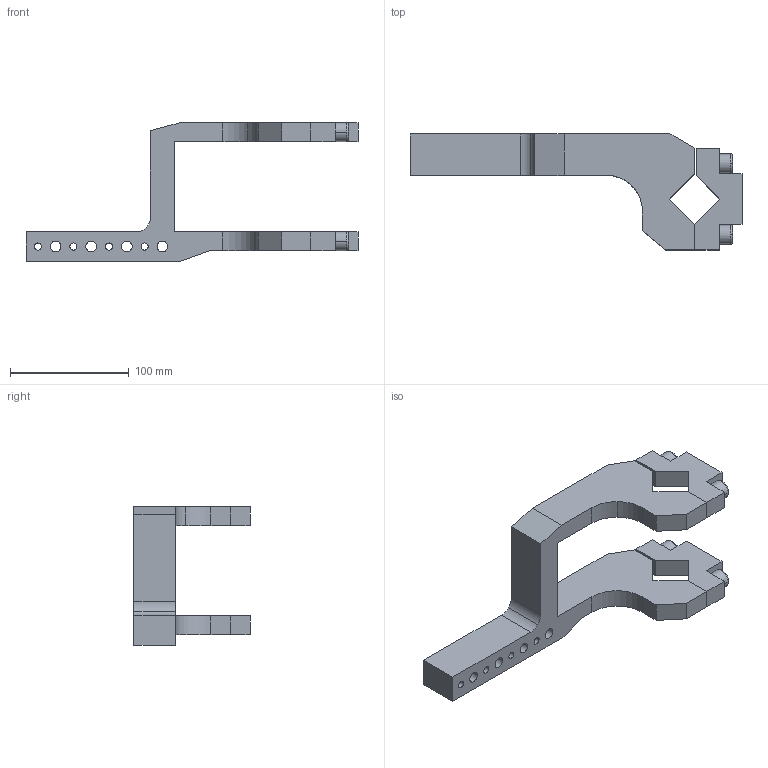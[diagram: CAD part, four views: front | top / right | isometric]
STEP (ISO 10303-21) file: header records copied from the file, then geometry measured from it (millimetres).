
FILE_DESCRIPTION((''),'2;1');
FILE_NAME('S:\Matthew\Step Files\XM Clamp Arms\XJ80-CAR-04.stp','2006-06-28T08:22:01',('Matthew'),(''),'Autodesk Inventor 8','Autodesk Inventor 8','');
FILE_SCHEMA(('AUTOMOTIVE_DESIGN { 1 0 10303 214 1 1 1 1 }'));
Length unit declared in the file: millimetre
Products named in the file (1): XJ80-CAR-04
Bounding box: 280 x 98 x 117 mm (x, y, z)
Volume: 428119.8 mm3; surface area: 92156 mm2
Topology: 1 solids, 3 shells, 126 faces, 334 edges, 212 vertices
Faces by surface type: plane 65, cylinder 29, bspline 24, torus 8
Entity records: 4231 total; most frequent: CARTESIAN_POINT 1073, DIRECTION 658, ORIENTED_EDGE 652, EDGE_CURVE 326, AXIS2_PLACEMENT_3D 229, VERTEX_POINT 212, VECTOR 200, LINE 200
